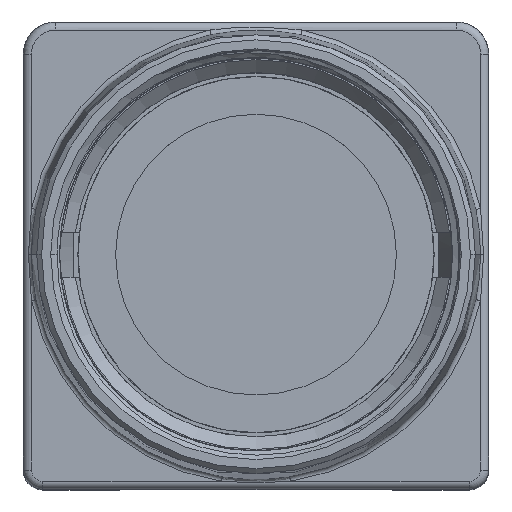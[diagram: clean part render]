
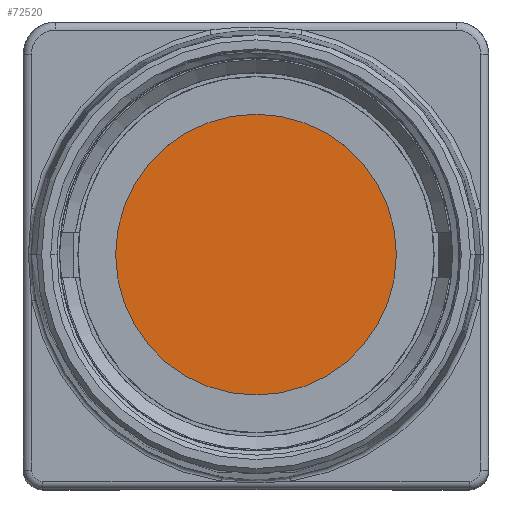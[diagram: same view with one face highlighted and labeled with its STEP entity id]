
A CAD part, top view. The second image highlights one B-rep face of the part: STEP entity #72520.
In plain terms, the highlighted planar face has unit normal (0, 0, 1).
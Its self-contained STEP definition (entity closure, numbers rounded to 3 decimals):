
#29522=CARTESIAN_POINT('',(0.,0.5,-2.45));
#29523=DIRECTION('',(0.,0.,-1.));
#29524=DIRECTION('',(-1.,0.,0.));
#29525=AXIS2_PLACEMENT_3D('',#29522,#29523,#29524);
#29530=CARTESIAN_POINT('',(0.,0.5,-2.45));
#29531=DIRECTION('',(0.,0.,-1.));
#29532=DIRECTION('',(1.,0.,0.));
#29533=AXIS2_PLACEMENT_3D('',#29530,#29531,#29532);
#45994=CARTESIAN_POINT('',(-10.9,0.5,-2.45));
#45995=CARTESIAN_POINT('',(10.9,0.5,-2.45));
#45996=VERTEX_POINT('',#45994);
#45997=VERTEX_POINT('',#45995);
#72511=CARTESIAN_POINT('',(0.,0.5,-2.45));
#72512=DIRECTION('',(0.,0.,1.));
#72513=DIRECTION('',(1.,0.,0.));
#72514=AXIS2_PLACEMENT_3D('',#72511,#72512,#72513);
#72515=PLANE('',#72514);
#72516=ORIENTED_EDGE('',*,*,#72491,.T.);
#72517=ORIENTED_EDGE('',*,*,#72505,.T.);
#72518=EDGE_LOOP('',(#72516,#72517));
#72519=FACE_OUTER_BOUND('',#72518,.F.);
#72520=ADVANCED_FACE('',(#72519),#72515,.T.);
#29526=CIRCLE('',#29525,10.9);
#29534=CIRCLE('',#29533,10.9);
#72491=EDGE_CURVE('',#45996,#45997,#29526,.T.);
#72505=EDGE_CURVE('',#45997,#45996,#29534,.T.);
